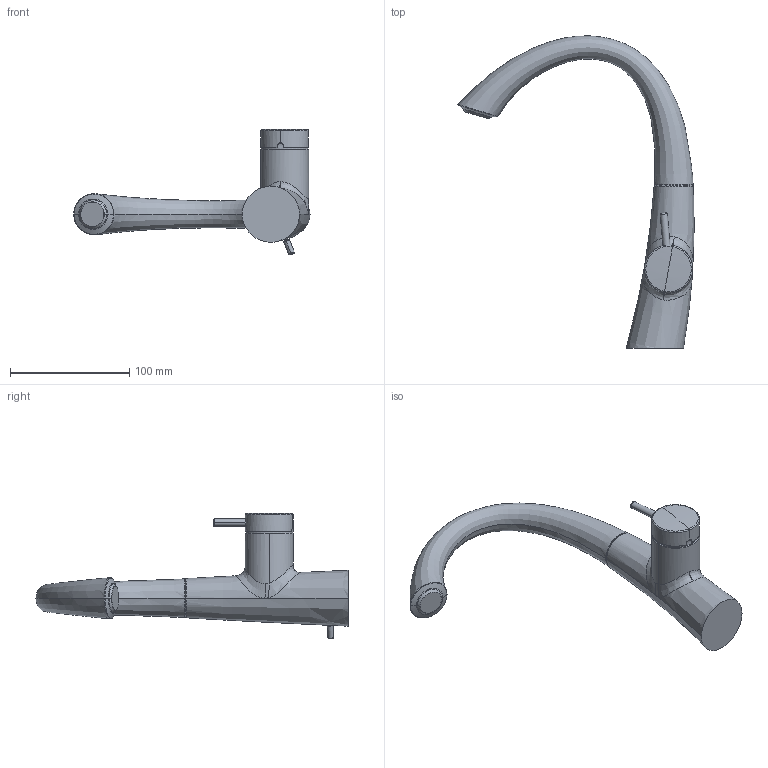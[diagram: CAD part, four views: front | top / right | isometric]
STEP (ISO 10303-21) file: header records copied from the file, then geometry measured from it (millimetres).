
FILE_DESCRIPTION((''),'2;1');
FILE_NAME('12208131','2014-03-24T',('fujo'),(''),'PRO/ENGINEER BY PARAMETRIC TECHNOLOGY CORPORATION, 2013330','PRO/ENGINEER BY PARAMETRIC TECHNOLOGY CORPORATION, 2013330','');
FILE_SCHEMA(('AUTOMOTIVE_DESIGN_CC2 { 1 2 10303 214 -1 1 5 2 }'));
Length unit declared in the file: millimetre
Products named in the file (1): 12208131
Bounding box: 198.2 x 261.85 x 105.62 mm (x, y, z)
Volume: 388066 mm3; surface area: 50757.7 mm2
Topology: 2 solids, 2 shells, 85 faces, 184 edges, 104 vertices
Faces by surface type: bspline 23, cylinder 21, torus 20, plane 11, sphere 6, cone 4
Entity records: 7501 total; most frequent: CARTESIAN_POINT 4739, ORIENTED_EDGE 364, DIRECTION 332, EDGE_CURVE 182, FILL_AREA_STYLE_COLOUR 167, FILL_AREA_STYLE 167, SURFACE_STYLE_FILL_AREA 167, SURFACE_SIDE_STYLE 167
